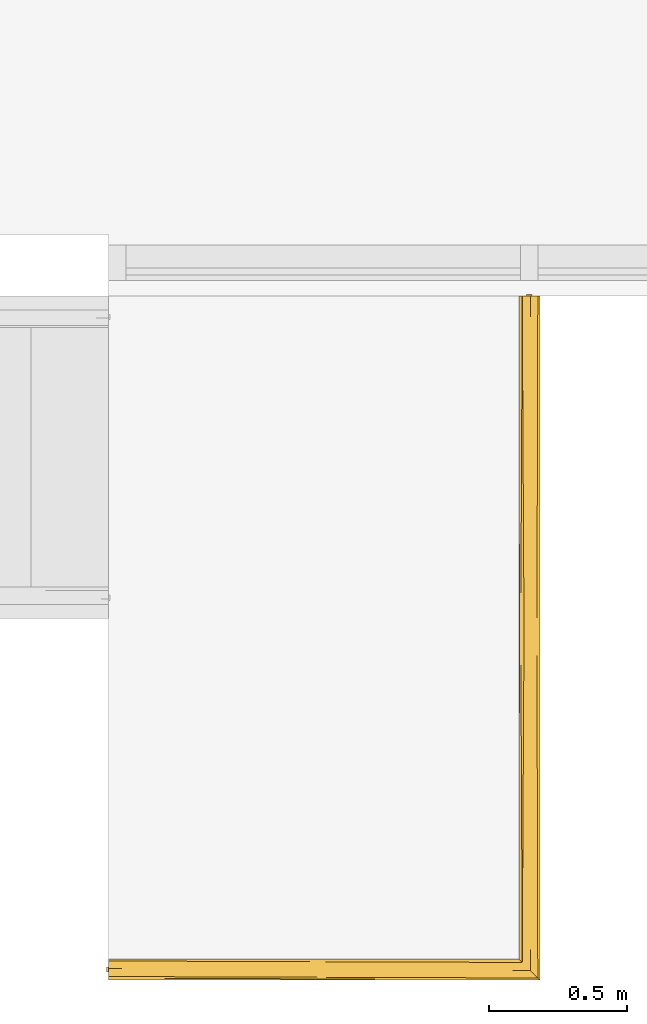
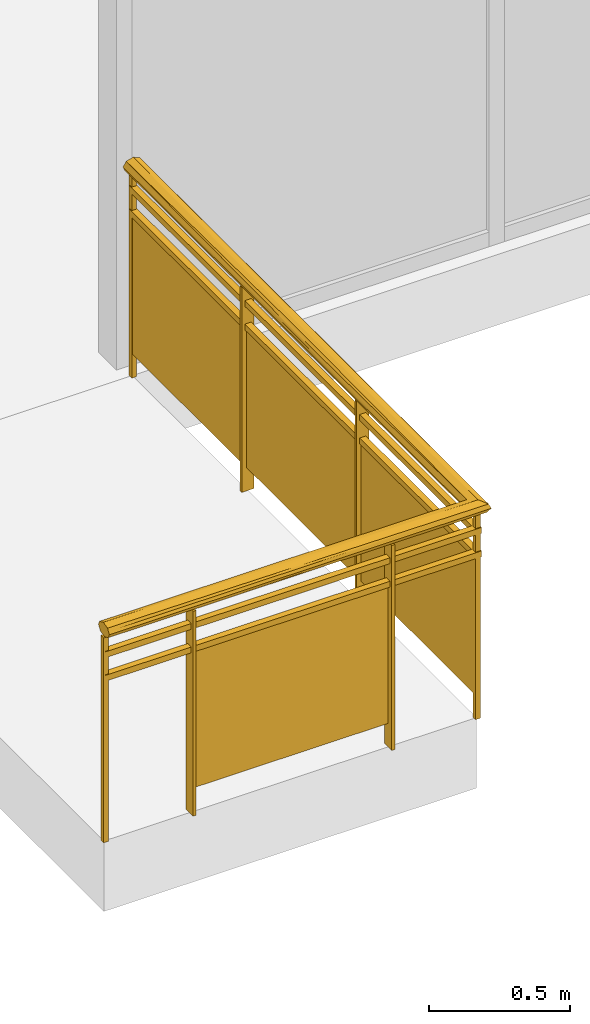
# One storey, part 10 of 11: 1 railing.
"""IFC2X3 building model written with IfcOpenShell, lengths in feet."""

from ifc_helpers import new_model, entity, si_unit, converted_unit, derived_unit, direction, frame, origin, place, context, subcontext, project, spatial, faceted_brep, material, material_list, element, save


model = new_model("IFC2X3")

# Units and contexts
model_context = context("Model", 3, precision=0.0001, world=origin(), true_north=direction((6.12303176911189e-17, 1.0)))
body_context = subcontext(model_context, "Body", "Model", "MODEL_VIEW")
ifc_project = project(units=[converted_unit("LENGTHUNIT", "FOOT", entity("IfcRatioMeasure", 0.3048), si_unit("LENGTHUNIT", "METRE"), dimensions=[1, 0, 0, 0, 0, 0, 0]), converted_unit("AREAUNIT", "SQUARE FOOT", entity("IfcRatioMeasure", 0.09290304), si_unit("AREAUNIT", "SQUARE_METRE"), dimensions=[2, 0, 0, 0, 0, 0, 0]), converted_unit("VOLUMEUNIT", "CUBIC FOOT", entity("IfcRatioMeasure", 0.028316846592), si_unit("VOLUMEUNIT", "CUBIC_METRE"), dimensions=[3, 0, 0, 0, 0, 0, 0]), converted_unit("PLANEANGLEUNIT", "DEGREE", entity("IfcRatioMeasure", 0.0174532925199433), si_unit("PLANEANGLEUNIT", "RADIAN"), dimensions=[0, 0, 0, 0, 0, 0, 0]), si_unit("MASSUNIT", "GRAM", prefix="KILO"), derived_unit("MASSDENSITYUNIT", [(si_unit("MASSUNIT", "GRAM", prefix="KILO"), 1), (si_unit("LENGTHUNIT", "METRE"), -3)]), si_unit("TIMEUNIT", "SECOND"), si_unit("FREQUENCYUNIT", "HERTZ"), si_unit("THERMODYNAMICTEMPERATUREUNIT", "DEGREE_CELSIUS"), derived_unit("THERMALTRANSMITTANCEUNIT", [(si_unit("MASSUNIT", "GRAM", prefix="KILO"), 1), (si_unit("THERMODYNAMICTEMPERATUREUNIT", "KELVIN"), -1), (si_unit("TIMEUNIT", "SECOND"), -3)]), derived_unit("VOLUMETRICFLOWRATEUNIT", [(si_unit("LENGTHUNIT", "METRE"), 3), (si_unit("TIMEUNIT", "SECOND"), -1)]), si_unit("ELECTRICCURRENTUNIT", "AMPERE"), si_unit("ELECTRICVOLTAGEUNIT", "VOLT"), si_unit("POWERUNIT", "WATT"), si_unit("FORCEUNIT", "NEWTON"), si_unit("ILLUMINANCEUNIT", "LUX"), si_unit("LUMINOUSFLUXUNIT", "LUMEN"), si_unit("LUMINOUSINTENSITYUNIT", "CANDELA"), derived_unit("USERDEFINED", [(si_unit("MASSUNIT", "GRAM", prefix="KILO"), -1), (si_unit("LENGTHUNIT", "METRE"), -2), (si_unit("TIMEUNIT", "SECOND"), 3), (si_unit("LUMINOUSFLUXUNIT", "LUMEN"), 1)]), derived_unit("LINEARVELOCITYUNIT", [(si_unit("LENGTHUNIT", "METRE"), 1), (si_unit("TIMEUNIT", "SECOND"), -1)]), si_unit("PRESSUREUNIT", "PASCAL"), derived_unit("USERDEFINED", [(si_unit("LENGTHUNIT", "METRE"), -2), (si_unit("MASSUNIT", "GRAM", prefix="KILO"), 1), (si_unit("TIMEUNIT", "SECOND"), -2)])], contexts=[model_context])

# Site, building, storey
site_placement = place(None, origin())
site = spatial("IfcSite", under=ifc_project, at=site_placement, Name="Default", CompositionType="ELEMENT")
building_placement = place(site_placement, origin())
building = spatial("IfcBuilding", under=site, at=building_placement, CompositionType="ELEMENT")
storey_placement = place(building_placement, frame((0.0, 0.0, 10.0)))
storey = spatial("IfcBuildingStorey", under=building, at=storey_placement, Name="Level 2", CompositionType="ELEMENT", Elevation=9.99999999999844)

# Railing
ifc_material_1 = material(Name="Glass")
ifc_material_2 = material(Name="alum - color")
ifc_material_list = material_list([ifc_material_1, ifc_material_2])
railing_placement = place(storey_placement, frame((-21.6793294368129, -15.4672084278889, 0.0)))
element("IfcRailing", 1, at=railing_placement, inside=storey, material=ifc_material_list, Name="Railing:Glass Panel - Bottom Fill", ObjectType="Railing:Glass Panel - Bottom Fill", PredefinedType="NOTDEFINED", context=body_context, shape_type="Brep", body=[
    faceted_brep([(1.20833333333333, 0.0469004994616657, 2.90577041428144), (1.20833333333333, 0.0469004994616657, 0.0), (1.20833333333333, 0.213567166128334, 0.0), (1.20833333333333, 0.213567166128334, 2.90577041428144), (1.16666666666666, 0.0469004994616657, 2.90577041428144), (1.16666666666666, 0.0469004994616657, 0.0), (1.16666666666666, 0.213567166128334, 2.90577041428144), (1.16666666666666, 0.213567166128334, 0.0)], [[[0, 1, 2, 3]], [[4, 5, 1, 0]], [[6, 7, 5, 4]], [[3, 2, 7, 6]], [[3, 6, 4, 0]], [[1, 5, 7, 2]]]),
    faceted_brep([(3.85416666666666, 0.15167463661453, 0.333333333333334), (1.18749999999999, 0.15167463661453, 0.333333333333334), (1.18749999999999, 0.15167463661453, 2.29166666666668), (3.85416666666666, 0.15167463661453, 2.29166666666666), (3.85416666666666, 0.130841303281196, 0.333333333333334), (3.85416666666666, 0.130841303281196, 2.29166666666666), (1.18749999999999, 0.130841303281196, 2.29166666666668), (1.18749999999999, 0.130841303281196, 0.333333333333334)], [[[0, 1, 2, 3]], [[4, 5, 6, 7]], [[3, 5, 4, 0]], [[2, 6, 5, 3]], [[1, 7, 6, 2]], [[0, 4, 7, 1]]]),
    faceted_brep([(3.87499999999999, 0.0469004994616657, 2.90577041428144), (3.87499999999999, 0.0469004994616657, 0.0), (3.87499999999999, 0.213567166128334, 0.0), (3.87499999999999, 0.213567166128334, 2.90577041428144), (3.83333333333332, 0.0469004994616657, 2.90577041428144), (3.83333333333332, 0.0469004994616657, 0.0), (3.83333333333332, 0.213567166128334, 2.90577041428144), (3.83333333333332, 0.213567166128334, 0.0)], [[[0, 1, 2, 3]], [[4, 5, 1, 0]], [[6, 7, 5, 4]], [[3, 2, 7, 6]], [[3, 6, 4, 0]], [[1, 5, 7, 2]]]),
    faceted_brep([(4.99939252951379, 2.79690049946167, 0.333333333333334), (4.99939252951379, 0.130233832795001, 0.333333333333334), (4.99939252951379, 0.130233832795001, 2.29166666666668), (4.99939252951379, 2.79690049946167, 2.29166666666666), (5.02022586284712, 2.79690049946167, 0.333333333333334), (5.02022586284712, 2.79690049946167, 2.29166666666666), (5.02022586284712, 0.130233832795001, 2.29166666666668), (5.02022586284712, 0.130233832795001, 0.333333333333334)], [[[0, 1, 2, 3]], [[4, 5, 6, 7]], [[3, 5, 4, 0]], [[2, 6, 5, 3]], [[1, 7, 6, 2]], [[0, 4, 7, 1]]]),
    faceted_brep([(5.10416666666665, 2.817733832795, 2.90577041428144), (5.10416666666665, 2.817733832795, 0.0), (4.93749999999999, 2.817733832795, 0.0), (4.93749999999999, 2.817733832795, 2.90577041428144), (5.10416666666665, 2.77606716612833, 2.90577041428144), (5.10416666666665, 2.77606716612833, 0.0), (4.93749999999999, 2.77606716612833, 2.90577041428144), (4.93749999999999, 2.77606716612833, 0.0)], [[[0, 1, 2, 3]], [[4, 5, 1, 0]], [[6, 7, 5, 4]], [[3, 2, 7, 6]], [[3, 6, 4, 0]], [[1, 5, 7, 2]]]),
    faceted_brep([(4.99939252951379, 5.46356716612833, 0.333333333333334), (4.99939252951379, 2.79690049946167, 0.333333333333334), (4.99939252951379, 2.79690049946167, 2.29166666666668), (4.99939252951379, 5.46356716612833, 2.29166666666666), (5.02022586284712, 5.46356716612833, 0.333333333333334), (5.02022586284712, 5.46356716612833, 2.29166666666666), (5.02022586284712, 2.79690049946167, 2.29166666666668), (5.02022586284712, 2.79690049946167, 0.333333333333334)], [[[0, 1, 2, 3]], [[4, 5, 6, 7]], [[3, 5, 4, 0]], [[2, 6, 5, 3]], [[1, 7, 6, 2]], [[0, 4, 7, 1]]]),
    faceted_brep([(5.10416666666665, 5.48440049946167, 2.90577041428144), (5.10416666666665, 5.48440049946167, 0.0), (4.93749999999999, 5.48440049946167, 0.0), (4.93749999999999, 5.48440049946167, 2.90577041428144), (5.10416666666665, 5.442733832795, 2.90577041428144), (5.10416666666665, 5.442733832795, 0.0), (4.93749999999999, 5.442733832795, 2.90577041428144), (4.93749999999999, 5.442733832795, 0.0)], [[[0, 1, 2, 3]], [[4, 5, 1, 0]], [[6, 7, 5, 4]], [[3, 2, 7, 6]], [[3, 6, 4, 0]], [[1, 5, 7, 2]]]),
    faceted_brep([(4.99939252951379, 8.130233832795, 0.333333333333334), (4.99939252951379, 5.46356716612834, 0.333333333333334), (4.99939252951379, 5.46356716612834, 2.29166666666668), (4.99939252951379, 8.130233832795, 2.29166666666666), (5.02022586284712, 8.130233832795, 0.333333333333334), (5.02022586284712, 8.130233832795, 2.29166666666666), (5.02022586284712, 5.46356716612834, 2.29166666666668), (5.02022586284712, 5.46356716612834, 0.333333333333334)], [[[0, 1, 2, 3]], [[4, 5, 6, 7]], [[3, 5, 4, 0]], [[2, 6, 5, 3]], [[1, 7, 6, 2]], [[0, 4, 7, 1]]]),
    faceted_brep([(5.05208333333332, 0.161483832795, 2.90577041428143), (5.05208333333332, 0.161483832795, 0.0), (4.98958333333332, 0.161483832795, 0.0), (4.98958333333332, 0.161483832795, 2.90577041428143), (5.05208333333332, 0.0989838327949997, 2.90577041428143), (5.05208333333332, 0.0989838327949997, 0.0), (4.98958333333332, 0.0989838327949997, 2.90577041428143), (4.98958333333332, 0.0989838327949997, 0.0)], [[[0, 1, 2, 3]], [[4, 5, 1, 0]], [[6, 7, 5, 4]], [[3, 2, 7, 6]], [[3, 6, 4, 0]], [[1, 5, 7, 2]]]),
    faceted_brep([(0.0625, 0.0989838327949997, 2.90577041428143), (0.0625, 0.0989838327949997, 0.0), (0.0625, 0.161483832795, 0.0), (0.0625, 0.161483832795, 2.90577041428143), (0.0, 0.0989838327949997, 2.90577041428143), (0.0, 0.0989838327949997, 0.0), (0.0, 0.161483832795, 2.90577041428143), (0.0, 0.161483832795, 0.0)], [[[0, 1, 2, 3]], [[4, 5, 1, 0]], [[6, 7, 5, 4]], [[3, 2, 7, 6]], [[3, 6, 4, 0]], [[1, 5, 7, 2]]]),
    faceted_brep([(5.05208333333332, 8.15106716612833, 2.90577041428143), (5.05208333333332, 8.15106716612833, 0.0), (4.98958333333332, 8.15106716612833, 0.0), (4.98958333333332, 8.15106716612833, 2.90577041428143), (5.05208333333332, 8.08856716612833, 2.90577041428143), (5.05208333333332, 8.08856716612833, 0.0), (4.98958333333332, 8.08856716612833, 2.90577041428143), (4.98958333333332, 8.08856716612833, 0.0)], [[[0, 1, 2, 3]], [[4, 5, 1, 0]], [[6, 7, 5, 4]], [[3, 2, 7, 6]], [[3, 6, 4, 0]], [[1, 5, 7, 2]]]),
    faceted_brep([(5.06249999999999, 8.130233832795, 2.70833333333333), (5.06249999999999, 8.130233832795, 2.625), (4.97916666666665, 8.130233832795, 2.625), (4.97916666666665, 8.130233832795, 2.70833333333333), (4.97916666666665, 0.171900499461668, 2.70833333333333), (5.06249999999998, 0.0885671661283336, 2.70833333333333), (4.97916666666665, 0.171900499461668, 2.625), (5.06249999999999, 0.0885671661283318, 2.625), (0.0208333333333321, 0.0885671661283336, 2.70833333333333), (0.0208333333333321, 0.171900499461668, 2.70833333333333), (0.0208333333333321, 0.171900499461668, 2.625), (0.0208333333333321, 0.0885671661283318, 2.625)], [[[0, 1, 2, 3]], [[0, 3, 4, 5]], [[3, 2, 6, 4]], [[2, 1, 7, 6]], [[1, 0, 5, 7]], [[8, 9, 10, 11]], [[5, 4, 9, 8]], [[4, 6, 10, 9]], [[6, 7, 11, 10]], [[7, 5, 8, 11]]]),
    faceted_brep([(5.06249999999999, 8.130233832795, 2.375), (5.06249999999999, 8.130233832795, 2.29166666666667), (4.97916666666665, 8.130233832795, 2.29166666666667), (4.97916666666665, 8.130233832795, 2.375), (4.97916666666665, 0.171900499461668, 2.375), (5.06249999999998, 0.0885671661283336, 2.375), (4.97916666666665, 0.171900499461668, 2.29166666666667), (5.06249999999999, 0.0885671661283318, 2.29166666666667), (0.0208333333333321, 0.0885671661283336, 2.375), (0.0208333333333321, 0.171900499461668, 2.375), (0.0208333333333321, 0.171900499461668, 2.29166666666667), (0.0208333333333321, 0.0885671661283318, 2.29166666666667)], [[[0, 1, 2, 3]], [[0, 3, 4, 5]], [[3, 2, 6, 4]], [[2, 1, 7, 6]], [[1, 0, 5, 7]], [[8, 9, 10, 11]], [[5, 4, 9, 8]], [[4, 6, 10, 9]], [[6, 7, 11, 10]], [[7, 5, 8, 11]]]),
    faceted_brep([(5.00776727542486, 8.130233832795, 2.90676357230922), (4.96373674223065, 8.130233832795, 2.9258293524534), (4.91970620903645, 8.130233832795, 2.94489513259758), (4.90776977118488, 8.130233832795, 2.97244756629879), (4.89583333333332, 8.130233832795, 3.0), (4.91651267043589, 8.130233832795, 3.03483491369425), (4.93719200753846, 8.130233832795, 3.06966982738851), (4.98554569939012, 8.130233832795, 3.08145312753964), (5.03389939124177, 8.130233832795, 3.09323642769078), (5.07792992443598, 8.130233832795, 3.0741706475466), (5.12196045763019, 8.130233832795, 3.05510486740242), (5.13389689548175, 8.130233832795, 3.02755243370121), (5.14583333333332, 8.130233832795, 3.0), (5.12515399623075, 8.130233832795, 2.96516508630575), (5.10447465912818, 8.130233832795, 2.93033017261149), (5.05612096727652, 8.130233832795, 2.91854687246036), (5.03389939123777, 4.13676685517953, 2.90676357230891), (4.90776977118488, 0.243297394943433, 2.97244756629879), (4.90949198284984, 4.18079739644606, 2.95738769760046), (4.91970620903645, 0.231360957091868, 2.94489513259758), (5.12515399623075, 0.0259131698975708, 2.96516508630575), (5.12196045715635, 4.08841313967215, 2.94489513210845), (5.13760764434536, 4.07807343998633, 2.96655336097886), (5.10447465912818, 0.0465925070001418, 2.93033017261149), (5.08353660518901, 4.08841318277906, 2.91889832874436), (4.98240730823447, 4.13676686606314, 2.91078958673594), (4.92954232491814, 4.18079739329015, 2.93595969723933), (4.89924080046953, 3.78364768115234, 2.97825962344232), (5.08029781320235, 0.0707693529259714, 2.92443852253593), (5.05612096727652, 0.0949461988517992, 2.91854687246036), (4.96373674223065, 0.187330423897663, 2.9258293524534), (4.95384112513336, 4.20738820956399, 2.92085085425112), (4.90671106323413, 0.244356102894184, 2.97489134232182), (4.89583333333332, 0.255233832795, 3.0), (5.00776727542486, 0.143299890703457, 2.90676357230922), (4.89583333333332, 4.55774049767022, 3.0), (4.89583333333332, 4.61312962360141, 3.0), (5.14583333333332, 3.57772891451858, 3.0), (5.14583333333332, 3.5223529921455, 3.0), (5.14583333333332, 0.00523383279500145, 3.0), (5.03194412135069, 0.119123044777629, 2.91265522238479), (4.98554569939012, 0.165521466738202, 3.08145312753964), (5.03389939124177, 0.117167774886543, 3.09323642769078), (5.00776727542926, 4.14787766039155, 3.09323642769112), (5.13220914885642, 4.07967027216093, 3.04256160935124), (5.12196045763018, 0.0291067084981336, 3.05510486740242), (5.13389689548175, 0.0171702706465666, 3.02755243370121), (5.13732804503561, 0.0137391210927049, 3.01963243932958), (4.91651267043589, 0.234554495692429, 3.03483491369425), (4.93719200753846, 0.213875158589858, 3.06966982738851), (4.91976425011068, 4.17205446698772, 3.05516473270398), (4.95833333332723, 4.17205450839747, 3.08118988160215), (5.14248572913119, 4.56614973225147, 3.02155117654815), (5.07792992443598, 0.0731372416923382, 3.0741706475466), (5.05966322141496, 4.10168553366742, 3.08911199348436), (4.90446656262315, 4.18239410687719, 3.03423628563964), (5.11132213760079, 4.07967026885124, 3.06467755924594), (5.08751696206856, 4.29614994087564, 3.07929558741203), (4.90961810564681, 0.241449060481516, 3.02322082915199), (0.0208333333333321, 0.234554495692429, 2.96516508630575), (0.0208333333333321, 0.213875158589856, 2.93033017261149), (0.0208333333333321, 0.165521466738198, 2.91854687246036), (0.0208333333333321, 0.117167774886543, 2.90676357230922), (0.0208333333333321, 0.0731372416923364, 2.9258293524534), (0.0208333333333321, 0.0291067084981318, 2.94489513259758), (0.0208333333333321, 0.0171702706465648, 2.97244756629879), (0.0208333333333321, 0.00523383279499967, 3.0), (0.0208333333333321, 0.0259131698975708, 3.03483491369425), (0.0208333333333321, 0.0465925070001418, 3.06966982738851), (0.0208333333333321, 0.0949461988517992, 3.08145312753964), (0.0208333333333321, 0.143299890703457, 3.09323642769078), (0.0208333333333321, 0.187330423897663, 3.0741706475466), (0.0208333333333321, 0.231360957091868, 3.05510486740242), (0.0208333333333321, 0.243297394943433, 3.02755243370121), (0.0208333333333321, 0.255233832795, 3.0), (2.55056556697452, 0.0564588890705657, 2.92431961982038), (2.89626214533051, 0.0307681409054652, 2.94321961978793), (2.24295494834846, 0.197520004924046, 2.92099124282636), (2.43610950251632, 0.22380430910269, 2.93783786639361), (2.52687111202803, 0.0145921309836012, 2.96440859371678), (2.43656163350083, 0.132589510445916, 2.90626664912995), (2.32621046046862, 0.0979297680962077, 2.90943475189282), (2.74510676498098, 0.24234312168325, 2.95853573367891), (2.84265886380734, 0.165863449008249, 2.9101390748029), (2.05852276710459, 0.255233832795, 3.0), (2.78807614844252, 0.255233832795, 3.0), (2.8581440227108, 0.00523383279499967, 3.0), (2.37859063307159, 0.00523383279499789, 3.0), (2.24867187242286, 0.241609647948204, 3.04256160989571), (2.45069101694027, 0.222558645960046, 3.06320114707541), (2.24461549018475, 0.251872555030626, 3.02159454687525), (2.80128551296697, 0.195707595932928, 3.07986069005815), (2.76071940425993, 0.0180983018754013, 3.04142433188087), (2.54570818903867, 0.130792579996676, 3.09374906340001), (2.22597134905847, 0.164339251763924, 3.09019298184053), (2.80818823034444, 0.0959444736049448, 3.09015374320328), (2.5844605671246, 0.0376121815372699, 3.0629563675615), (2.2654487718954, 0.0639929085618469, 3.07950403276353)], [[[0, 1, 2, 3, 4, 5, 6, 7, 8, 9, 10, 11, 12, 13, 14, 15]], [[16, 0, 15]], [[17, 18, 19]], [[20, 21, 22]], [[2, 18, 3]], [[22, 13, 12]], [[23, 24, 21]], [[16, 25, 0]], [[19, 18, 26]], [[17, 27, 18]], [[24, 23, 28, 29]], [[30, 31, 25]], [[2, 26, 18]], [[27, 17, 32, 33]], [[31, 1, 25]], [[24, 16, 15]], [[34, 30, 25]], [[27, 4, 3]], [[21, 14, 13]], [[19, 26, 30]], [[26, 2, 1]], [[27, 33, 35, 36, 4]], [[18, 27, 3]], [[34, 25, 16]], [[0, 25, 1]], [[14, 21, 24]], [[23, 21, 20]], [[21, 13, 22]], [[22, 12, 37, 38, 39]], [[14, 24, 15]], [[16, 29, 40, 34]], [[29, 16, 24]], [[31, 26, 1]], [[26, 31, 30]], [[20, 22, 39]], [[41, 42, 43]], [[44, 45, 46, 47]], [[48, 49, 50]], [[47, 39, 38]], [[50, 6, 5]], [[7, 6, 51]], [[49, 41, 51]], [[52, 38, 37, 12]], [[52, 11, 44]], [[53, 54, 42]], [[8, 54, 9]], [[11, 10, 44]], [[50, 5, 55]], [[7, 43, 8]], [[10, 56, 44]], [[9, 56, 10]], [[52, 44, 47]], [[55, 4, 36, 35, 33]], [[45, 44, 56]], [[56, 53, 45]], [[57, 54, 53]], [[11, 52, 12]], [[38, 52, 47]], [[43, 7, 51]], [[49, 51, 50]], [[54, 8, 43]], [[41, 43, 51]], [[50, 55, 48]], [[6, 50, 51]], [[5, 4, 55]], [[43, 42, 54]], [[9, 54, 57]], [[55, 33, 58, 48]], [[57, 56, 9]], [[56, 57, 53]], [[59, 60, 61, 62, 63, 64, 65, 66, 67, 68, 69, 70, 71, 72, 73, 74]], [[75, 76, 64]], [[77, 60, 78]], [[79, 65, 64]], [[62, 80, 81]], [[82, 32, 17, 19]], [[80, 83, 34]], [[80, 40, 81]], [[77, 61, 60]], [[83, 77, 30]], [[30, 77, 78]], [[32, 84, 85, 33]], [[19, 78, 82]], [[60, 59, 78]], [[82, 59, 84]], [[30, 78, 19]], [[74, 84, 59]], [[82, 78, 59]], [[32, 82, 84]], [[61, 77, 83]], [[62, 61, 80]], [[34, 83, 30]], [[83, 80, 61]], [[28, 23, 75]], [[28, 75, 81]], [[63, 81, 75]], [[81, 63, 62]], [[29, 28, 81, 40]], [[80, 34, 40]], [[75, 64, 63]], [[79, 20, 39]], [[86, 79, 39]], [[76, 75, 23]], [[76, 23, 20]], [[76, 79, 64]], [[76, 20, 79]], [[65, 86, 87, 66]], [[65, 79, 86]], [[73, 72, 88]], [[89, 49, 48]], [[48, 90, 88]], [[89, 48, 88]], [[90, 85, 84, 74]], [[58, 33, 85]], [[71, 91, 89]], [[91, 41, 49]], [[87, 92, 67]], [[70, 93, 94]], [[93, 69, 95]], [[96, 68, 67]], [[49, 89, 91]], [[69, 93, 70]], [[89, 88, 72]], [[90, 48, 58]], [[89, 72, 71]], [[91, 71, 94]], [[41, 91, 94]], [[73, 88, 90]], [[73, 90, 74]], [[85, 90, 58]], [[95, 69, 97]], [[70, 94, 71]], [[42, 41, 93]], [[94, 93, 41]], [[68, 96, 97]], [[95, 42, 93]], [[95, 53, 42]], [[53, 95, 97]], [[45, 92, 46]], [[68, 97, 69]], [[45, 53, 96]], [[97, 96, 53]], [[67, 66, 87]], [[67, 92, 96]], [[46, 87, 86, 39, 47]], [[96, 92, 45]], [[46, 92, 87]]]),
])

save(model, "model.ifc")
